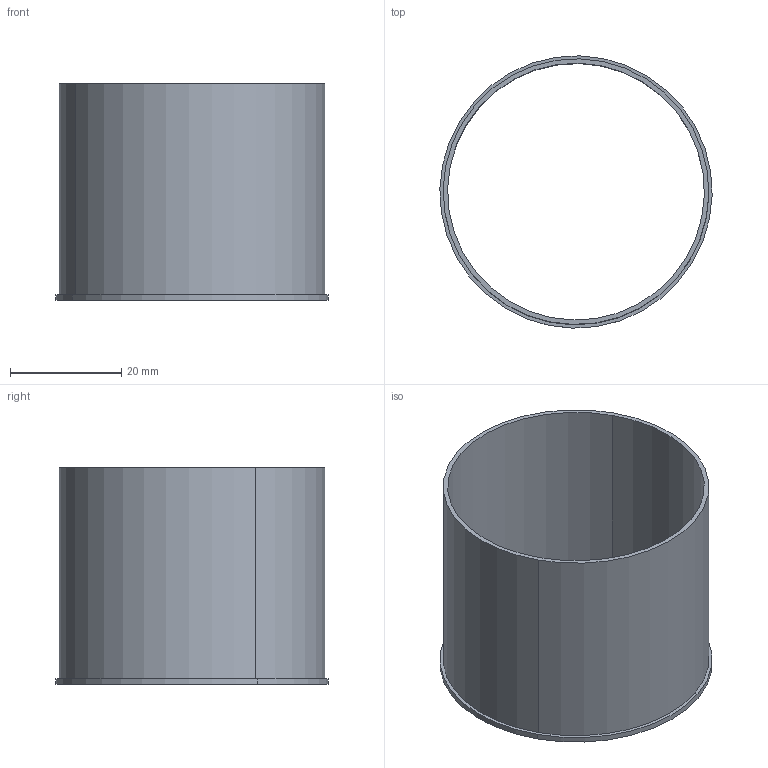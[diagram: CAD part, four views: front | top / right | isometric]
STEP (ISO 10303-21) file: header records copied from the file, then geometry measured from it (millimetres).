
FILE_DESCRIPTION(('STEP AP214'),'1');
FILE_NAME('pim0004605.stp','2016-02-22T10:22:46',('CAD-PIM'),('TransMagic, Inc.'),'TMR11sp0','TransMagic R11',' ');
FILE_SCHEMA(('AUTOMOTIVE_DESIGN'));
Length unit declared in the file: millimetre
Products named in the file (1): pim0004605
Bounding box: 48.99 x 48.99 x 39 mm (x, y, z)
Volume: 4697.6 mm3; surface area: 11937.9 mm2
Topology: 1 solids, 1 shells, 9 faces, 18 edges, 12 vertices
Faces by surface type: bspline 9
Entity records: 524 total; most frequent: CARTESIAN_POINT 103, STYLED_ITEM 40, PRESENTATION_STYLE_ASSIGNMENT 40, COLOUR_RGB 40, ORIENTED_EDGE 36, DIRECTION 32, EDGE_CURVE 18, CURVE_STYLE 18
